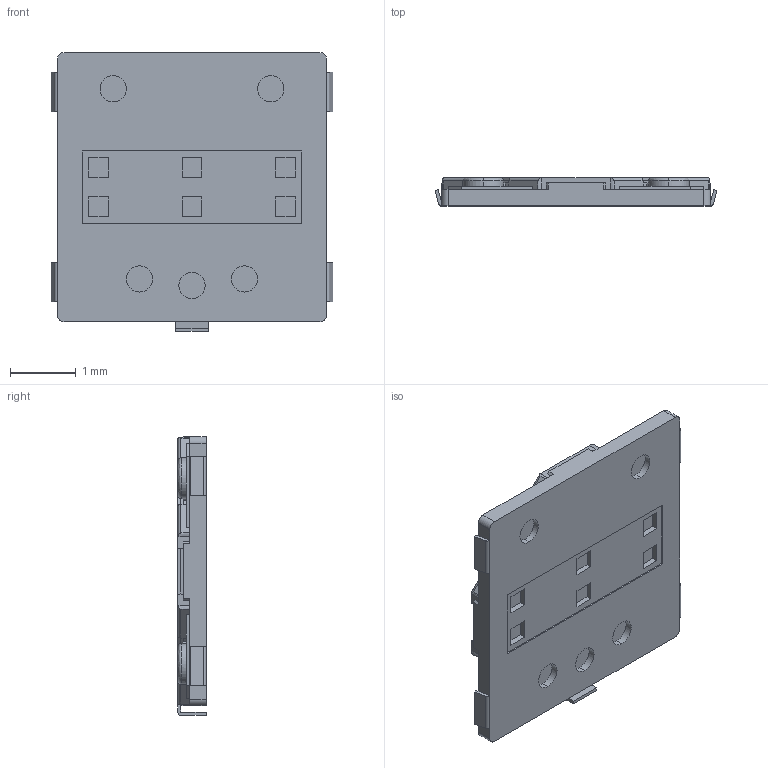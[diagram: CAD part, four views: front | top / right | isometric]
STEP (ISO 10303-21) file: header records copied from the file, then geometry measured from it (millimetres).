
FILE_DESCRIPTION (( 'STEP AP203' ), '1' );
FILE_NAME ('EVQ6P6B40.STEP', '2013-04-05T04:42:29', ( '' ), ( '' ), 'SwSTEP 2.0', 'SolidWorks 2011', '' );
FILE_SCHEMA (( 'CONFIG_CONTROL_DESIGN' ));
Length unit declared in the file: millimetre
Products named in the file (1): EVQ6P6B40
Bounding box: 4.3 x 0.43 x 4.25 mm (x, y, z)
Volume: 6.2 mm3; surface area: 44.5 mm2
Topology: 1 solids, 1 shells, 250 faces, 681 edges, 446 vertices
Faces by surface type: plane 183, cylinder 51, bspline 16
Entity records: 8016 total; most frequent: CARTESIAN_POINT 1686, ORIENTED_EDGE 1362, DIRECTION 1209, EDGE_CURVE 681, VECTOR 535, LINE 535, VERTEX_POINT 446, AXIS2_PLACEMENT_3D 337
